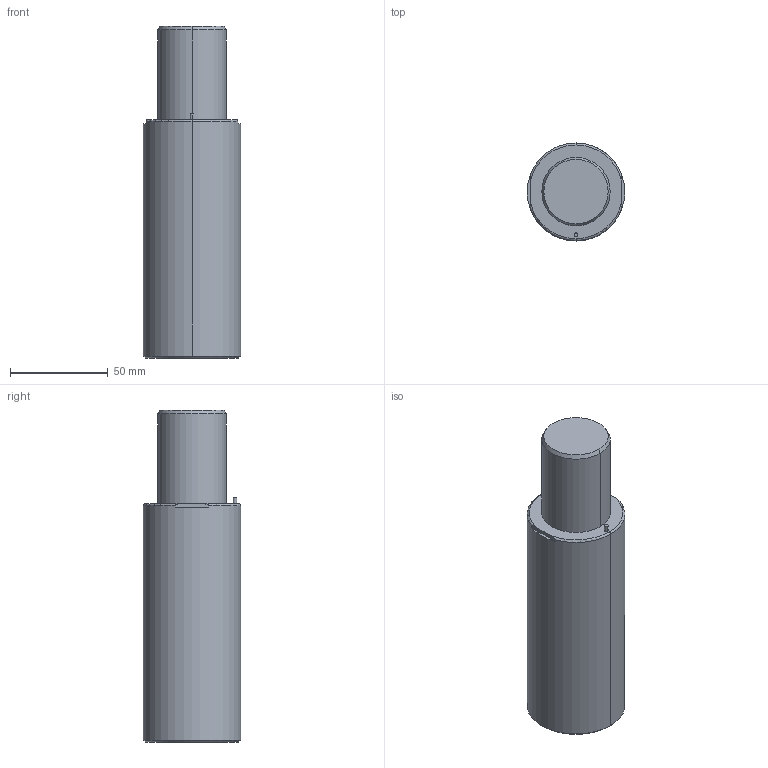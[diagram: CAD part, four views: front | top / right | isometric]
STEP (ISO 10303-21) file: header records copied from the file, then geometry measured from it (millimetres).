
FILE_DESCRIPTION(/* description */ (''),/* implementation_level */ '2;1');
FILE_NAME(/* name */ '3d_gsx50-45_03982_r00.stp',/* time_stamp */ '2011-01-10T14:15:12+09:00',/* author */ ('MISUMI'),/* organization */ (''),/* preprocessor_version */ 'ST-DEVELOPER v11',/* originating_system */ 'UGS - NX 5.0',/* authorisation */ '');
FILE_SCHEMA (('CONFIG_CONTROL_DESIGN'));
Length unit declared in the file: millimetre
Products named in the file (1): 3d_gsx50-45_03982_r00
Bounding box: 50 x 50 x 170 mm (x, y, z)
Volume: 282167.7 mm3; surface area: 29836.7 mm2
Topology: 1 solids, 1 shells, 59 faces, 130 edges, 78 vertices
Faces by surface type: cylinder 28, plane 15, cone 12, torus 4
Entity records: 1724 total; most frequent: CARTESIAN_POINT 320, DIRECTION 308, ORIENTED_EDGE 244, AXIS2_PLACEMENT_3D 130, EDGE_CURVE 122, VERTEX_POINT 78, EDGE_LOOP 72, CIRCLE 70
